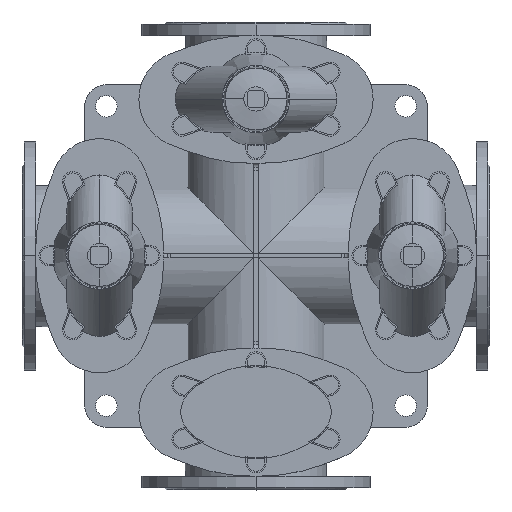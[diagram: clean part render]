
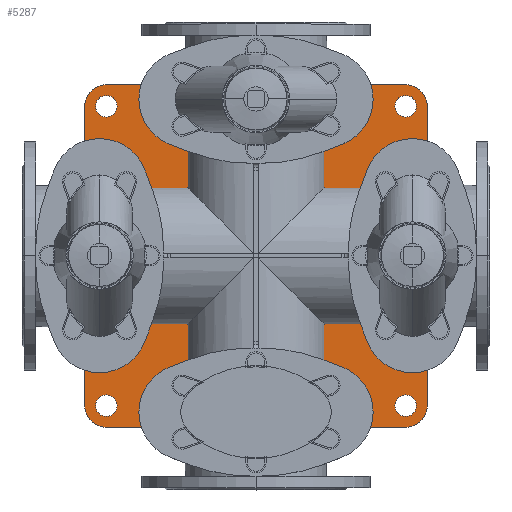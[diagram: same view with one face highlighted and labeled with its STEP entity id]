
A CAD part, top view. The second image highlights one B-rep face of the part: STEP entity #5287.
In plain terms, the highlighted planar face has unit normal (0, 0, 1).
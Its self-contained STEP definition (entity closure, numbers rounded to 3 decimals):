
#5287=ADVANCED_FACE('',(#10678,#10679,#10680,#10681,#10682),#10683,.F.);
#10678=FACE_BOUND('',#17790,.T.);
#10679=FACE_BOUND('',#17791,.T.);
#10680=FACE_BOUND('',#17792,.T.);
#10681=FACE_BOUND('',#17793,.T.);
#10682=FACE_OUTER_BOUND('',#17794,.T.);
#10683=PLANE('',#17795);
#17790=EDGE_LOOP('',(#27711,#27712));
#17791=EDGE_LOOP('',(#27713,#27714));
#17792=EDGE_LOOP('',(#27715,#27716));
#17793=EDGE_LOOP('',(#27717,#27718));
#17794=EDGE_LOOP('',(#27719,#27720,#27721,#27722,#27723,#27724,#27725,#27726));
#17795=AXIS2_PLACEMENT_3D('',#27727,#27728,#27729);
#27711=ORIENTED_EDGE('',*,*,#39913,.T.);
#27712=ORIENTED_EDGE('',*,*,#41147,.T.);
#27713=ORIENTED_EDGE('',*,*,#40988,.T.);
#27714=ORIENTED_EDGE('',*,*,#41148,.T.);
#27715=ORIENTED_EDGE('',*,*,#41149,.T.);
#27716=ORIENTED_EDGE('',*,*,#41150,.T.);
#27717=ORIENTED_EDGE('',*,*,#41151,.T.);
#27718=ORIENTED_EDGE('',*,*,#41152,.T.);
#27719=ORIENTED_EDGE('',*,*,#39188,.F.);
#27720=ORIENTED_EDGE('',*,*,#41153,.F.);
#27721=ORIENTED_EDGE('',*,*,#41154,.F.);
#27722=ORIENTED_EDGE('',*,*,#41088,.F.);
#27723=ORIENTED_EDGE('',*,*,#39802,.F.);
#27724=ORIENTED_EDGE('',*,*,#41155,.F.);
#27725=ORIENTED_EDGE('',*,*,#41156,.F.);
#27726=ORIENTED_EDGE('',*,*,#39348,.F.);
#27727=CARTESIAN_POINT('',(347.5,0.,27.0));
#27728=DIRECTION('',(0.0,0.0,-1.0));
#27729=DIRECTION('',(-1.0,0.0,0.0));
#39188=EDGE_CURVE('',#46586,#46587,#46588,.T.);
#39348=EDGE_CURVE('',#46587,#46858,#46859,.T.);
#39802=EDGE_CURVE('',#47598,#47599,#47600,.T.);
#39913=EDGE_CURVE('',#47769,#47774,#47776,.T.);
#40988=EDGE_CURVE('',#49436,#49441,#49443,.T.);
#41088=EDGE_CURVE('',#47599,#49593,#49594,.T.);
#41147=EDGE_CURVE('',#47774,#47769,#49684,.T.);
#41148=EDGE_CURVE('',#49441,#49436,#49685,.T.);
#41149=EDGE_CURVE('',#49686,#49687,#49688,.T.);
#41150=EDGE_CURVE('',#49687,#49686,#49689,.T.);
#41151=EDGE_CURVE('',#49690,#49691,#49692,.T.);
#41152=EDGE_CURVE('',#49691,#49690,#49693,.T.);
#41153=EDGE_CURVE('',#49694,#46586,#49695,.T.);
#41154=EDGE_CURVE('',#49593,#49694,#49696,.T.);
#41155=EDGE_CURVE('',#49697,#47598,#49698,.T.);
#41156=EDGE_CURVE('',#46858,#49697,#49699,.T.);
#46586=VERTEX_POINT('',#56462);
#46587=VERTEX_POINT('',#56463);
#46588=LINE('',#56464,#56465);
#46858=VERTEX_POINT('',#56813);
#46859=CIRCLE('',#56814,32.0);
#47598=VERTEX_POINT('',#57758);
#47599=VERTEX_POINT('',#57759);
#47600=LINE('',#57760,#57761);
#47769=VERTEX_POINT('',#57981);
#47774=VERTEX_POINT('',#57987);
#47776=CIRCLE('',#57990,16.0);
#49436=VERTEX_POINT('',#60133);
#49441=VERTEX_POINT('',#60139);
#49443=CIRCLE('',#60142,16.0);
#49593=VERTEX_POINT('',#60330);
#49594=CIRCLE('',#60331,32.0);
#49684=CIRCLE('',#60457,16.0);
#49685=CIRCLE('',#60458,16.0);
#49686=VERTEX_POINT('',#60459);
#49687=VERTEX_POINT('',#60460);
#49688=CIRCLE('',#60461,16.0);
#49689=CIRCLE('',#60462,16.0);
#49690=VERTEX_POINT('',#60463);
#49691=VERTEX_POINT('',#60464);
#49692=CIRCLE('',#60465,16.0);
#49693=CIRCLE('',#60466,16.0);
#49694=VERTEX_POINT('',#60467);
#49695=CIRCLE('',#60468,32.0);
#49696=LINE('',#60469,#60470);
#49697=VERTEX_POINT('',#60471);
#49698=CIRCLE('',#60472,32.0);
#49699=LINE('',#60473,#60474);
#56462=CARTESIAN_POINT('',(570.0,-254.5,27.0));
#56463=CARTESIAN_POINT('',(125.0,-254.5,27.0));
#56464=CARTESIAN_POINT('',(570.0,-254.5,27.0));
#56465=VECTOR('',#67245,1.0);
#56813=CARTESIAN_POINT('',(93.0,-222.5,27.0));
#56814=AXIS2_PLACEMENT_3D('',#67471,#67472,#67473);
#57758=CARTESIAN_POINT('',(125.0,254.5,27.0));
#57759=CARTESIAN_POINT('',(570.0,254.5,27.0));
#57760=CARTESIAN_POINT('',(125.0,254.5,27.0));
#57761=VECTOR('',#68123,1.0);
#57981=CARTESIAN_POINT('',(141.0,222.5,27.0));
#57987=CARTESIAN_POINT('',(109.0,222.5,27.0));
#57990=AXIS2_PLACEMENT_3D('',#68267,#68268,#68269);
#60133=CARTESIAN_POINT('',(141.0,-222.5,27.0));
#60139=CARTESIAN_POINT('',(109.0,-222.5,27.0));
#60142=AXIS2_PLACEMENT_3D('',#69751,#69752,#69753);
#60330=CARTESIAN_POINT('',(602.0,222.5,27.0));
#60331=AXIS2_PLACEMENT_3D('',#69897,#69898,#69899);
#60457=AXIS2_PLACEMENT_3D('',#69960,#69961,#69962);
#60458=AXIS2_PLACEMENT_3D('',#69963,#69964,#69965);
#60459=CARTESIAN_POINT('',(586.0,-222.5,27.0));
#60460=CARTESIAN_POINT('',(554.0,-222.5,27.0));
#60461=AXIS2_PLACEMENT_3D('',#69966,#69967,#69968);
#60462=AXIS2_PLACEMENT_3D('',#69969,#69970,#69971);
#60463=CARTESIAN_POINT('',(586.0,222.5,27.0));
#60464=CARTESIAN_POINT('',(554.0,222.5,27.0));
#60465=AXIS2_PLACEMENT_3D('',#69972,#69973,#69974);
#60466=AXIS2_PLACEMENT_3D('',#69975,#69976,#69977);
#60467=CARTESIAN_POINT('',(602.0,-222.5,27.0));
#60468=AXIS2_PLACEMENT_3D('',#69978,#69979,#69980);
#60469=CARTESIAN_POINT('',(602.0,222.5,27.0));
#60470=VECTOR('',#69981,1.0);
#60471=CARTESIAN_POINT('',(93.0,222.5,27.0));
#60472=AXIS2_PLACEMENT_3D('',#69982,#69983,#69984);
#60473=CARTESIAN_POINT('',(93.0,-222.5,27.0));
#60474=VECTOR('',#69985,1.0);
#67245=DIRECTION('',(-1.0,0.0,0.0));
#67471=CARTESIAN_POINT('',(125.0,-222.5,27.0));
#67472=DIRECTION('',(0.0,0.0,-1.0));
#67473=DIRECTION('',(-1.0,0.0,0.0));
#68123=DIRECTION('',(1.0,0.0,0.0));
#68267=CARTESIAN_POINT('',(125.0,222.5,27.0));
#68268=DIRECTION('',(0.0,0.0,-1.0));
#68269=DIRECTION('',(1.0,0.0,0.0));
#69751=CARTESIAN_POINT('',(125.0,-222.5,27.0));
#69752=DIRECTION('',(0.0,0.0,-1.0));
#69753=DIRECTION('',(1.0,0.0,0.0));
#69897=CARTESIAN_POINT('',(570.0,222.5,27.0));
#69898=DIRECTION('',(0.0,0.0,-1.0));
#69899=DIRECTION('',(-1.0,0.0,0.0));
#69960=CARTESIAN_POINT('',(125.0,222.5,27.0));
#69961=DIRECTION('',(0.0,0.0,-1.0));
#69962=DIRECTION('',(1.0,0.0,0.0));
#69963=CARTESIAN_POINT('',(125.0,-222.5,27.0));
#69964=DIRECTION('',(0.0,0.0,-1.0));
#69965=DIRECTION('',(1.0,0.0,0.0));
#69966=CARTESIAN_POINT('',(570.0,-222.5,27.0));
#69967=DIRECTION('',(0.0,0.0,-1.0));
#69968=DIRECTION('',(1.0,0.0,0.0));
#69969=CARTESIAN_POINT('',(570.0,-222.5,27.0));
#69970=DIRECTION('',(0.0,0.0,-1.0));
#69971=DIRECTION('',(1.0,0.0,0.0));
#69972=CARTESIAN_POINT('',(570.0,222.5,27.0));
#69973=DIRECTION('',(0.0,0.0,-1.0));
#69974=DIRECTION('',(1.0,0.0,0.0));
#69975=CARTESIAN_POINT('',(570.0,222.5,27.0));
#69976=DIRECTION('',(0.0,0.0,-1.0));
#69977=DIRECTION('',(1.0,0.0,0.0));
#69978=CARTESIAN_POINT('',(570.0,-222.5,27.0));
#69979=DIRECTION('',(0.0,0.0,-1.0));
#69980=DIRECTION('',(-1.0,0.0,0.0));
#69981=DIRECTION('',(0.0,-1.0,0.0));
#69982=CARTESIAN_POINT('',(125.0,222.5,27.0));
#69983=DIRECTION('',(0.0,0.0,-1.0));
#69984=DIRECTION('',(-1.0,0.0,0.0));
#69985=DIRECTION('',(0.0,1.0,0.0));
